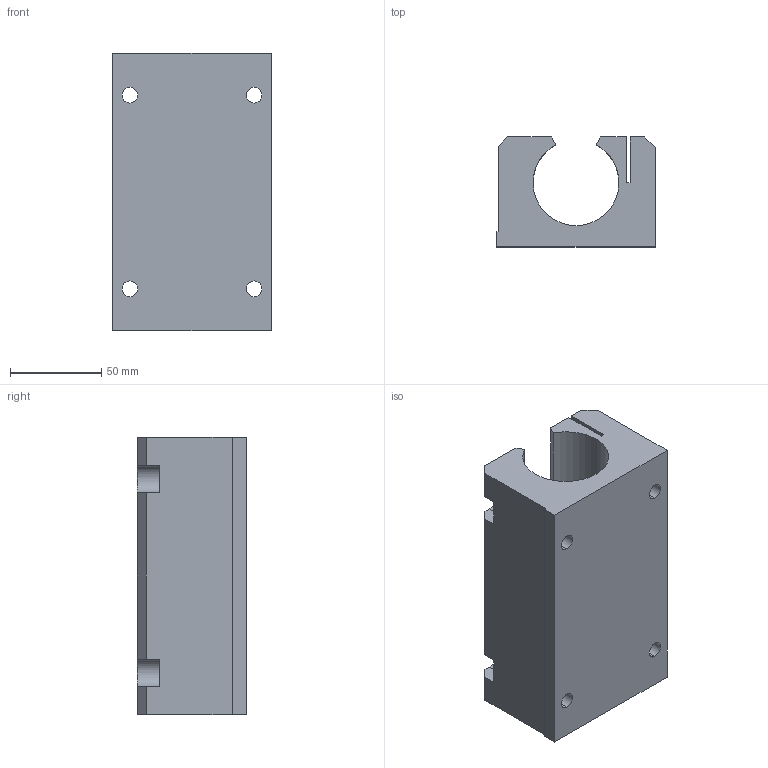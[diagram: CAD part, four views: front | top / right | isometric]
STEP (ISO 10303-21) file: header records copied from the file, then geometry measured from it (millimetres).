
FILE_DESCRIPTION (( 'STEP AP214' ), '1' );
FILE_NAME ('KTGOE34-30.step', '2020-03-04T13:29:19', ( '' ), ( '' ), 'SwSTEP 2.0', 'SolidWorks 2019', '' );
FILE_SCHEMA (( 'AUTOMOTIVE_DESIGN' ));
Length unit declared in the file: millimetre
Products named in the file (1): KTGOE34-30
Bounding box: 87 x 60 x 152 mm (x, y, z)
Volume: 476320.8 mm3; surface area: 81217.7 mm2
Topology: 1 solids, 1 shells, 80 faces, 234 edges, 153 vertices
Faces by surface type: plane 41, cylinder 35, cone 4
Entity records: 3016 total; most frequent: CARTESIAN_POINT 580, ORIENTED_EDGE 464, DIRECTION 456, EDGE_CURVE 232, LINE 154, VECTOR 154, VERTEX_POINT 153, AXIS2_PLACEMENT_3D 151
